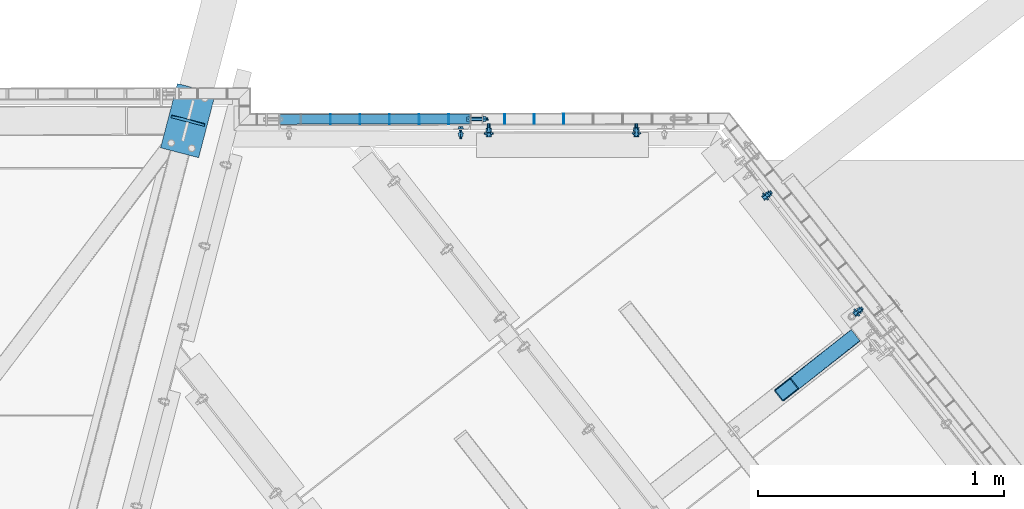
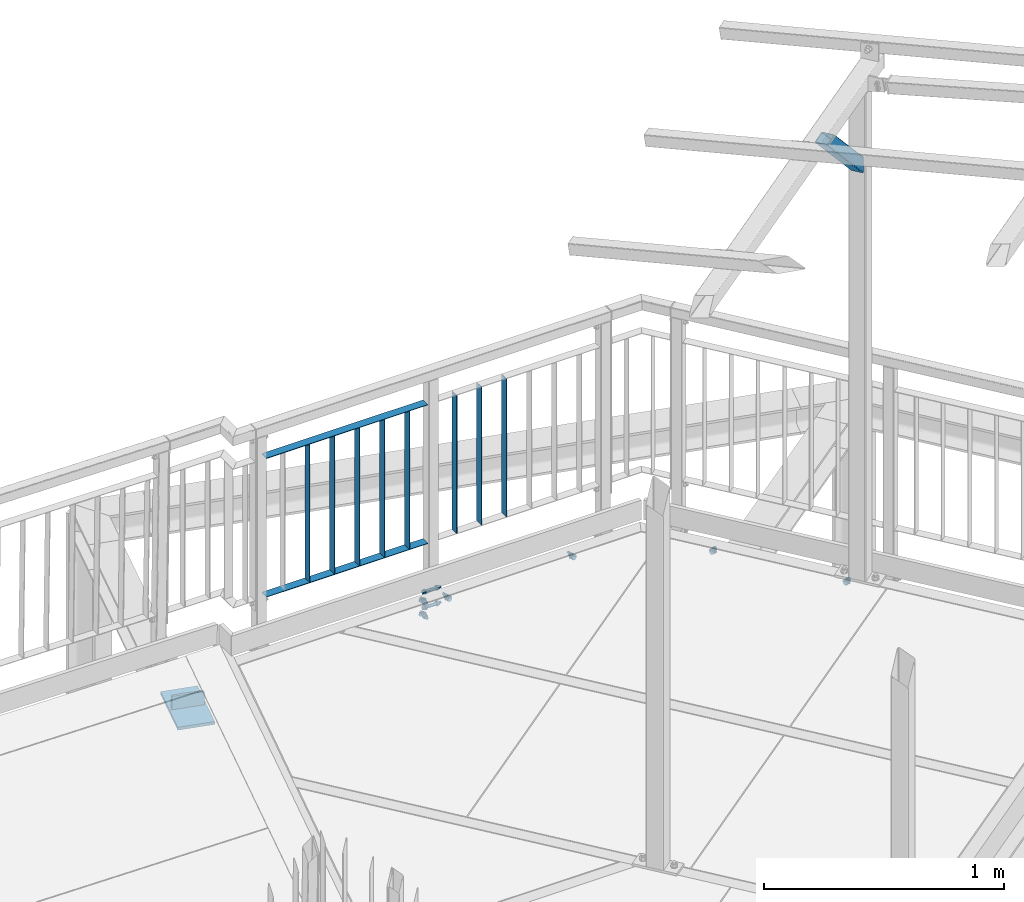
# One storey, part 129 of 169: 13 discrete accessories, 4 mechanical fasteners, 6 elements without a shape of their own.
"""IFC2X3 building model written with IfcOpenShell, lengths in millimetres."""

from ifc_helpers import new_model, si_unit, frame, frame_2d, origin_with_axes, origin_2d_with_axis, place, context, subcontext, project, spatial, polyline, circle_curve, parameter, trimmed, segment, composite_curve, rectangle, hollow_rectangle, circle, outline, extrude, boolean, clip, halfspace, source, transform, mapped, material, type_object, element, aggregate, save


model = new_model("IFC2X3")

# Units and contexts
model_context = context("Model", 3, precision=1e-05, world=origin_with_axes())
body_context = subcontext(model_context, "Body", "Model", "MODEL_VIEW")
ifc_project = project(units=[si_unit("LENGTHUNIT", "METRE", prefix="MILLI"), si_unit("AREAUNIT", "SQUARE_METRE"), si_unit("VOLUMEUNIT", "CUBIC_METRE"), si_unit("MASSUNIT", "GRAM", prefix="KILO"), si_unit("TIMEUNIT", "SECOND"), si_unit("PLANEANGLEUNIT", "RADIAN"), si_unit("SOLIDANGLEUNIT", "STERADIAN"), si_unit("THERMODYNAMICTEMPERATUREUNIT", "DEGREE_CELSIUS"), si_unit("LUMINOUSINTENSITYUNIT", "LUMEN")], contexts=[model_context])

# Site, building, storey
site_placement = place(None, origin_with_axes())
site = spatial("IfcSite", under=ifc_project, at=site_placement, Name="Undefined", CompositionType="ELEMENT")
building_placement = place(site_placement, origin_with_axes())
building = spatial("IfcBuilding", under=site, at=building_placement, Name="Undefined", CompositionType="ELEMENT")
storey_placement = place(building_placement, origin_with_axes())
storey = spatial("IfcBuildingStorey", under=building, at=storey_placement, Name="Undefined", CompositionType="ELEMENT", Elevation=0.0)

# Assembly, discrete accessory
assembly_1_placement = place(storey_placement, origin_with_axes())
assembly_1 = element("IfcElementAssembly", 1, at=assembly_1_placement, inside=storey, Name="Steel Assembly", AssemblyPlace="NOTDEFINED", PredefinedType="RIGID_FRAME")
ifc_material_1 = material(Name="STEEL/S355")
discrete_accessory_type_1 = type_object("IfcDiscreteAccessoryType", Name="BLACHA")
discrete_accessory_1_placement = place(assembly_1_placement, frame((18884.6726961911, 2170.02371001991, 13577.706391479), z_axis=(0.0, 0.0, 1.0), x_axis=(0.967563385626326, -0.252628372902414, 0.0)))
discrete_accessory_1 = element("IfcDiscreteAccessory", 2, at=discrete_accessory_1_placement, type_object=discrete_accessory_type_1, material=ifc_material_1, Name="BLACHA", ObjectType="BL15*160", context=body_context, shape_type="SweptSolid", body=[
    extrude(outline(polyline([(0.0, 0.0), (160.000000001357, 1.36424205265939e-10), (160.000000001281, 269.999999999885), (-5.46424416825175e-09, 269.999999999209), (0.0, 0.0)])), frame((0.0, -1.24077091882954e-23, -7.49999999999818), z_axis=(0.0, 0.0, 1.0), x_axis=(1.0, 0.0, 0.0)), (0.0, 0.0, 1.0), 15.0),
])

assembly_2_placement = place(storey_placement, origin_with_axes())
assembly_2 = element("IfcElementAssembly", 3, at=assembly_2_placement, inside=storey, Name="Steel Assembly", AssemblyPlace="NOTDEFINED", PredefinedType="RIGID_FRAME")
ifc_material_2 = material(Name="STEEL/S235")
discrete_accessory_type_2 = type_object("IfcDiscreteAccessoryType", Name="BEAM")
discrete_accessory_2_placement = place(assembly_2_placement, frame((21412.3001097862, 1173.94220497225, 16305.4411428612), z_axis=(-0.556332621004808, -0.436456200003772, -0.707106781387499), x_axis=(0.556332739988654, 0.436456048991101, -0.707106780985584)))
discrete_accessory_2 = element("IfcDiscreteAccessory", 4, at=discrete_accessory_2_placement, type_object=discrete_accessory_type_2, material=ifc_material_2, Name="BEAM", ObjectType="SHS60*3", context=body_context, shape_type="Clipping", body=[
    clip(clip(extrude(hollow_rectangle(XDim=60.0, YDim=60.0, WallThickness=3.0, InnerFilletRadius=3.0, OuterFilletRadius=6.0, at=origin_2d_with_axis()), frame((637.904540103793, 1.81363206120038e-12, 3.67338962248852e-12), z_axis=(-1.0, -3.46944695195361e-18, -1.38777878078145e-17), x_axis=(1.73472347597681e-18, -1.0, 0.0)), (0.0, 0.0, 1.0), 710.12), halfspace(frame((-143.137085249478, 3.41260601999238e-08, -678.822510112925), z_axis=(-0.707106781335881, -2.34577541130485e-10, 0.707106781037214), x_axis=(0.0, 1.0, 0.0)), True)), halfspace(frame((-705.391246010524, -5.43720307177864e-06, 735.391122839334), z_axis=(0.707106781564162, 2.34575523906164e-10, 0.707106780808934), x_axis=(0.0, 1.0, 0.0)), True)),
])
aggregate(assembly_2, [discrete_accessory_2])

# Discrete accessory
discrete_accessory_3_placement = place(assembly_1_placement, frame((18996.1826027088, 2280.43449420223, 13546.2064052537), z_axis=(-0.252628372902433, -0.967563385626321, 0.0), x_axis=(0.0, 0.0, 1.0)))
discrete_accessory_3 = element("IfcDiscreteAccessory", 5, at=discrete_accessory_3_placement, type_object=discrete_accessory_type_2, material=ifc_material_2, Name="BEAM", ObjectType="BL12*140", context=body_context, shape_type="Clipping", body=[
    clip(clip(extrude(outline(polyline([(38.9999999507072, 69.9999999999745), (107.349855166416, 69.9999999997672), (105.628422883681, -70.000000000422), (39.0000000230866, -70.0000000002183), (38.9999999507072, 69.9999999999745)])), frame((-1.81898942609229e-12, -1.81898940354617e-12, -5.99999999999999), z_axis=(0.0, 0.0, 1.0), x_axis=(1.0, 0.0, 0.0)), (0.0, 0.0, 1.0), 12.0), halfspace(frame((118.793852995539, 1000.66211049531, 0.194078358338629), z_axis=(-0.999919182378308, 0.0122949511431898, 0.00323463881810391), x_axis=(0.00323439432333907, -3.97698973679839e-05, 0.999994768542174)), True)), halfspace(frame((38.9999996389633, 1000.00000000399, 4.52928361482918e-09), z_axis=(1.0, 0.0, 0.0), x_axis=(-2.54700353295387e-10, 0.0, -1.0)), True)),
])

aggregate(assembly_1, [discrete_accessory_3, discrete_accessory_1])

# Assembly, discrete accessories
assembly_3_placement = place(storey_placement, origin_with_axes())
assembly_3 = element("IfcElementAssembly", 6, at=assembly_3_placement, inside=storey, Name="Steel Assembly", AssemblyPlace="NOTDEFINED", PredefinedType="RIGID_FRAME")
discrete_accessory_type_3 = type_object("IfcDiscreteAccessoryType", Name="PORĘCZ")
discrete_accessory_4_placement = place(assembly_3_placement, frame((19316.7468719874, 2285.53928650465, 14725.416721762), z_axis=(-2.54700353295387e-10, 0.0, -1.0), x_axis=(0.999998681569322, 0.00162384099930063, 1.65999999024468e-07)))
discrete_accessory_4 = element("IfcDiscreteAccessory", 7, at=discrete_accessory_4_placement, type_object=discrete_accessory_type_3, material=ifc_material_2, Name="PORĘCZ", ObjectType="BL40*3", context=body_context, shape_type="CSG", body=[
    boolean("DIFFERENCE", boolean("DIFFERENCE", boolean("DIFFERENCE", boolean("DIFFERENCE", extrude(outline(polyline([(50.5000000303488, 20.0000000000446), (827.35430248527, 19.999999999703), (827.354302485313, -20.0000000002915), (50.500000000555, -19.9999999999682), (50.5000000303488, 20.0000000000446)])), frame((1.81898940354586e-12, -1.77635442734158e-15, -1.50000000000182), z_axis=(0.0, 0.0, 1.0), x_axis=(1.0, 0.0, 0.0)), (0.0, 0.0, 1.0), 3.0), extrude(rectangle(XDim=51.0, YDim=51.0, at=origin_2d_with_axis()), frame((25.0000000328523, 4.80036578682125e-08, -139.999999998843), z_axis=(0.0, 0.0, 1.0), x_axis=(1.0, 0.0, 0.0)), (0.0, 0.0, 1.0), 280.0)), extrude(rectangle(XDim=51.0, YDim=51.0, at=origin_2d_with_axis()), frame((852.854302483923, 5.29290615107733e-08, -140.000000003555), z_axis=(0.0, 0.0, 1.0), x_axis=(1.0, 0.0, 0.0)), (0.0, 0.0, 1.0), 280.0)), halfspace(frame((49.9999397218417, 999.999999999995, 2.20794390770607e-07), z_axis=(1.0, 0.0, 0.0), x_axis=(-2.54700353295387e-10, 0.0, -1.0)), True)), halfspace(frame((827.854242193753, 1000.00000000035, -2.2878339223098e-07), z_axis=(-1.0, -3.46944695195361e-18, -1.38777878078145e-17), x_axis=(0.0, 0.0, 1.0)), True)),
])
discrete_accessory_5_placement = place(assembly_3_placement, frame((19575.6735987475, 2285.95966576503, 14870.4171478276), z_axis=(-0.999998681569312, -0.00162384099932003, -2.17981851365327e-07), x_axis=(-2.54700353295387e-10, 0.0, -1.0)))
discrete_accessory_5 = element("IfcDiscreteAccessory", 8, at=discrete_accessory_5_placement, type_object=discrete_accessory_type_3, material=ifc_material_2, Name="PORĘCZ", ObjectType="BL40*3", context=body_context, shape_type="Clipping", body=[
    clip(clip(clip(extrude(outline(polyline([(848.499998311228, 19.9999999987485), (848.500000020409, -20.000000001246), (146.500383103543, -20.0000000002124), (146.500381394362, 19.9999999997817), (848.499998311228, 19.9999999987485)])), frame((1.81898940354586e-12, -1.77635442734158e-15, -1.50000000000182), z_axis=(0.0, 0.0, 1.0), x_axis=(1.0, 0.0, 0.0)), (0.0, 0.0, 1.0), 3.0), halfspace(frame((146.500339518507, 1000.00000006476, -1.23327481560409e-09), z_axis=(1.0, 0.0, 0.0), x_axis=(-2.54700353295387e-10, 0.0, -1.0)), True)), halfspace(frame((25.3344726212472, 999.999999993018, -4.64569893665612e-09), z_axis=(1.0, 0.0, 0.0), x_axis=(-2.54700353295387e-10, 0.0, -1.0)), True)), halfspace(frame((848.499956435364, 999.999999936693, 2.33558239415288e-09), z_axis=(-1.0, -3.46944695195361e-18, -1.38777878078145e-17), x_axis=(0.0, 0.0, 1.0)), True)),
])
discrete_accessory_6_placement = place(assembly_3_placement, frame((19695.6734405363, 2286.15452668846, 14870.4171677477), z_axis=(-0.999998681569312, -0.00162384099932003, -2.17981851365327e-07), x_axis=(-2.54700353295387e-10, 0.0, -1.0)))
discrete_accessory_6 = element("IfcDiscreteAccessory", 9, at=discrete_accessory_6_placement, type_object=discrete_accessory_type_3, material=ifc_material_2, Name="PORĘCZ", ObjectType="BL40*3", context=body_context, shape_type="Clipping", body=[
    clip(clip(clip(extrude(outline(polyline([(848.499998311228, 19.9999999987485), (848.500000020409, -20.000000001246), (146.500383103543, -20.0000000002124), (146.500381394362, 19.9999999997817), (848.499998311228, 19.9999999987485)])), frame((1.81898940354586e-12, -1.77635442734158e-15, -1.50000000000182), z_axis=(0.0, 0.0, 1.0), x_axis=(1.0, 0.0, 0.0)), (0.0, 0.0, 1.0), 3.0), halfspace(frame((146.500339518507, 1000.00000006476, -1.23327481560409e-09), z_axis=(1.0, 0.0, 0.0), x_axis=(-2.54700353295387e-10, 0.0, -1.0)), True)), halfspace(frame((25.3344726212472, 999.999999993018, -4.64569893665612e-09), z_axis=(1.0, 0.0, 0.0), x_axis=(-2.54700353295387e-10, 0.0, -1.0)), True)), halfspace(frame((848.499956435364, 999.999999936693, 2.33558239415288e-09), z_axis=(-1.0, -3.46944695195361e-18, -1.38777878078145e-17), x_axis=(0.0, 0.0, 1.0)), True)),
])
discrete_accessory_7_placement = place(assembly_3_placement, frame((19815.6732823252, 2286.34938761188, 14870.4171876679), z_axis=(-0.999998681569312, -0.00162384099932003, -2.17981851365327e-07), x_axis=(-2.54700353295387e-10, 0.0, -1.0)))
discrete_accessory_7 = element("IfcDiscreteAccessory", 10, at=discrete_accessory_7_placement, type_object=discrete_accessory_type_3, material=ifc_material_2, Name="PORĘCZ", ObjectType="BL40*3", context=body_context, shape_type="Clipping", body=[
    clip(clip(clip(extrude(outline(polyline([(848.499998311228, 19.9999999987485), (848.500000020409, -20.000000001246), (146.500383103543, -20.0000000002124), (146.500381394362, 19.9999999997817), (848.499998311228, 19.9999999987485)])), frame((1.81898940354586e-12, -1.77635442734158e-15, -1.50000000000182), z_axis=(0.0, 0.0, 1.0), x_axis=(1.0, 0.0, 0.0)), (0.0, 0.0, 1.0), 3.0), halfspace(frame((146.500339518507, 1000.00000006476, -1.23327481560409e-09), z_axis=(1.0, 0.0, 0.0), x_axis=(-2.54700353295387e-10, 0.0, -1.0)), True)), halfspace(frame((25.3344726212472, 999.999999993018, -4.64569893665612e-09), z_axis=(1.0, 0.0, 0.0), x_axis=(-2.54700353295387e-10, 0.0, -1.0)), True)), halfspace(frame((848.499956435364, 999.999999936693, 2.33558239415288e-09), z_axis=(-1.0, -3.46944695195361e-18, -1.38777878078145e-17), x_axis=(0.0, 0.0, 1.0)), True)),
])
discrete_accessory_8_placement = place(assembly_3_placement, frame((19935.673124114, 2286.5442485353, 14870.417207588), z_axis=(-0.999998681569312, -0.00162384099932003, -2.17981851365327e-07), x_axis=(-2.54700353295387e-10, 0.0, -1.0)))
discrete_accessory_8 = element("IfcDiscreteAccessory", 11, at=discrete_accessory_8_placement, type_object=discrete_accessory_type_3, material=ifc_material_2, Name="PORĘCZ", ObjectType="BL40*3", context=body_context, shape_type="Clipping", body=[
    clip(clip(clip(extrude(outline(polyline([(848.499998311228, 19.9999999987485), (848.500000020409, -20.000000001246), (146.500383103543, -20.0000000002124), (146.500381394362, 19.9999999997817), (848.499998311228, 19.9999999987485)])), frame((1.81898940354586e-12, -1.77635442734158e-15, -1.50000000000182), z_axis=(0.0, 0.0, 1.0), x_axis=(1.0, 0.0, 0.0)), (0.0, 0.0, 1.0), 3.0), halfspace(frame((146.500339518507, 1000.00000006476, -1.23327481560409e-09), z_axis=(1.0, 0.0, 0.0), x_axis=(-2.54700353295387e-10, 0.0, -1.0)), True)), halfspace(frame((25.3344726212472, 999.999999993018, -4.64569893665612e-09), z_axis=(1.0, 0.0, 0.0), x_axis=(-2.54700353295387e-10, 0.0, -1.0)), True)), halfspace(frame((848.499956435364, 999.999999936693, 2.33558239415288e-09), z_axis=(-1.0, -3.46944695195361e-18, -1.38777878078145e-17), x_axis=(0.0, 0.0, 1.0)), True)),
])
discrete_accessory_9_placement = place(assembly_3_placement, frame((20055.6729659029, 2286.73910945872, 14870.4172275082), z_axis=(-0.999998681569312, -0.00162384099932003, -2.17981851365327e-07), x_axis=(-2.54700353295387e-10, 0.0, -1.0)))
discrete_accessory_9 = element("IfcDiscreteAccessory", 12, at=discrete_accessory_9_placement, type_object=discrete_accessory_type_3, material=ifc_material_2, Name="PORĘCZ", ObjectType="BL40*3", context=body_context, shape_type="Clipping", body=[
    clip(clip(clip(extrude(outline(polyline([(848.499998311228, 19.9999999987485), (848.500000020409, -20.000000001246), (146.500383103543, -20.0000000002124), (146.500381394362, 19.9999999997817), (848.499998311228, 19.9999999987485)])), frame((1.81898940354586e-12, -1.77635442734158e-15, -1.50000000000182), z_axis=(0.0, 0.0, 1.0), x_axis=(1.0, 0.0, 0.0)), (0.0, 0.0, 1.0), 3.0), halfspace(frame((146.500339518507, 1000.00000006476, -1.23327481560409e-09), z_axis=(1.0, 0.0, 0.0), x_axis=(-2.54700353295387e-10, 0.0, -1.0)), True)), halfspace(frame((25.3344726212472, 999.999999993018, -4.64569893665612e-09), z_axis=(1.0, 0.0, 0.0), x_axis=(-2.54700353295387e-10, 0.0, -1.0)), True)), halfspace(frame((848.499956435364, 999.999999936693, 2.33558239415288e-09), z_axis=(-1.0, -3.46944695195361e-18, -1.38777878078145e-17), x_axis=(0.0, 0.0, 1.0)), True)),
])
discrete_accessory_10_placement = place(assembly_3_placement, frame((20283.526967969, 2287.1091086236, 14870.4172653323), z_axis=(-0.999998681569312, -0.00162384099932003, -2.17981851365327e-07), x_axis=(-2.54700353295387e-10, 0.0, -1.0)))
discrete_accessory_10 = element("IfcDiscreteAccessory", 13, at=discrete_accessory_10_placement, type_object=discrete_accessory_type_3, material=ifc_material_2, Name="PORĘCZ", ObjectType="BL40*3", context=body_context, shape_type="Clipping", body=[
    clip(clip(clip(extrude(outline(polyline([(848.499998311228, 19.9999999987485), (848.500000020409, -20.000000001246), (146.500383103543, -20.0000000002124), (146.500381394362, 19.9999999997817), (848.499998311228, 19.9999999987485)])), frame((1.81898940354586e-12, -1.77635442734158e-15, -1.50000000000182), z_axis=(0.0, 0.0, 1.0), x_axis=(1.0, 0.0, 0.0)), (0.0, 0.0, 1.0), 3.0), halfspace(frame((146.500339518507, 1000.00000006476, -1.23327481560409e-09), z_axis=(1.0, 0.0, 0.0), x_axis=(-2.54700353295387e-10, 0.0, -1.0)), True)), halfspace(frame((25.3344726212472, 999.999999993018, -4.64569893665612e-09), z_axis=(1.0, 0.0, 0.0), x_axis=(-2.54700353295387e-10, 0.0, -1.0)), True)), halfspace(frame((848.499956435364, 999.999999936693, 2.33558239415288e-09), z_axis=(-1.0, -3.46944695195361e-18, -1.38777878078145e-17), x_axis=(0.0, 0.0, 1.0)), True)),
])
discrete_accessory_11_placement = place(assembly_3_placement, frame((20403.5268097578, 2287.30396954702, 14870.4172852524), z_axis=(-0.999998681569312, -0.00162384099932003, -2.17981851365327e-07), x_axis=(-2.54700353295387e-10, 0.0, -1.0)))
discrete_accessory_11 = element("IfcDiscreteAccessory", 14, at=discrete_accessory_11_placement, type_object=discrete_accessory_type_3, material=ifc_material_2, Name="PORĘCZ", ObjectType="BL40*3", context=body_context, shape_type="Clipping", body=[
    clip(clip(clip(extrude(outline(polyline([(848.499998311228, 19.9999999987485), (848.500000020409, -20.000000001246), (146.500383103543, -20.0000000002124), (146.500381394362, 19.9999999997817), (848.499998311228, 19.9999999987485)])), frame((1.81898940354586e-12, -1.77635442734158e-15, -1.50000000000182), z_axis=(0.0, 0.0, 1.0), x_axis=(1.0, 0.0, 0.0)), (0.0, 0.0, 1.0), 3.0), halfspace(frame((146.500339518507, 1000.00000006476, -1.23327481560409e-09), z_axis=(1.0, 0.0, 0.0), x_axis=(-2.54700353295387e-10, 0.0, -1.0)), True)), halfspace(frame((25.3344726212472, 999.999999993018, -4.64569893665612e-09), z_axis=(1.0, 0.0, 0.0), x_axis=(-2.54700353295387e-10, 0.0, -1.0)), True)), halfspace(frame((848.499956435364, 999.999999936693, 2.33558239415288e-09), z_axis=(-1.0, -3.46944695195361e-18, -1.38777878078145e-17), x_axis=(0.0, 0.0, 1.0)), True)),
])
discrete_accessory_12_placement = place(assembly_3_placement, frame((20523.5266515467, 2287.49883047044, 14870.4173051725), z_axis=(-0.999998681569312, -0.00162384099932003, -2.17981851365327e-07), x_axis=(-2.54700353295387e-10, 0.0, -1.0)))
discrete_accessory_12 = element("IfcDiscreteAccessory", 15, at=discrete_accessory_12_placement, type_object=discrete_accessory_type_3, material=ifc_material_2, Name="PORĘCZ", ObjectType="BL40*3", context=body_context, shape_type="Clipping", body=[
    clip(clip(clip(extrude(outline(polyline([(848.499998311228, 19.9999999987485), (848.500000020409, -20.000000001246), (146.500383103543, -20.0000000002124), (146.500381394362, 19.9999999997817), (848.499998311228, 19.9999999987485)])), frame((1.81898940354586e-12, -1.77635442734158e-15, -1.50000000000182), z_axis=(0.0, 0.0, 1.0), x_axis=(1.0, 0.0, 0.0)), (0.0, 0.0, 1.0), 3.0), halfspace(frame((146.500339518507, 1000.00000006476, -1.23327481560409e-09), z_axis=(1.0, 0.0, 0.0), x_axis=(-2.54700353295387e-10, 0.0, -1.0)), True)), halfspace(frame((25.3344726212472, 999.999999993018, -4.64569893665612e-09), z_axis=(1.0, 0.0, 0.0), x_axis=(-2.54700353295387e-10, 0.0, -1.0)), True)), halfspace(frame((848.499956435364, 999.999999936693, 2.33558239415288e-09), z_axis=(-1.0, -3.46944695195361e-18, -1.38777878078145e-17), x_axis=(0.0, 0.0, 1.0)), True)),
])
discrete_accessory_13_placement = place(assembly_3_placement, frame((19316.7469312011, 2285.53921107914, 14020.4171048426), z_axis=(-2.54700353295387e-10, 0.0, -1.0), x_axis=(0.999998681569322, 0.00162384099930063, 1.65999999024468e-07)))
discrete_accessory_13 = element("IfcDiscreteAccessory", 16, at=discrete_accessory_13_placement, type_object=discrete_accessory_type_3, material=ifc_material_2, Name="PORĘCZ", ObjectType="BL40*3", context=body_context, shape_type="CSG", body=[
    boolean("DIFFERENCE", boolean("DIFFERENCE", boolean("DIFFERENCE", boolean("DIFFERENCE", extrude(outline(polyline([(50.5000000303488, 20.0000000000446), (827.35430248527, 19.999999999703), (827.354302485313, -20.0000000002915), (50.500000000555, -19.9999999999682), (50.5000000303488, 20.0000000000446)])), frame((1.81898940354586e-12, -1.77635442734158e-15, -1.50000000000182), z_axis=(0.0, 0.0, 1.0), x_axis=(1.0, 0.0, 0.0)), (0.0, 0.0, 1.0), 3.0), extrude(rectangle(XDim=51.0, YDim=51.0, at=origin_2d_with_axis()), frame((25.0000000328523, 4.80036578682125e-08, -139.999999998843), z_axis=(0.0, 0.0, 1.0), x_axis=(1.0, 0.0, 0.0)), (0.0, 0.0, 1.0), 280.0)), extrude(rectangle(XDim=51.0, YDim=51.0, at=origin_2d_with_axis()), frame((852.854302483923, 5.29290615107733e-08, -140.000000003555), z_axis=(0.0, 0.0, 1.0), x_axis=(1.0, 0.0, 0.0)), (0.0, 0.0, 1.0), 280.0)), halfspace(frame((50.0000003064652, 999.99999999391, 3.93811205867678e-09), z_axis=(1.0, 0.0, 0.0), x_axis=(-2.54700353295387e-10, 0.0, -1.0)), True)), halfspace(frame((827.854293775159, 999.999999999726, -2.28761564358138e-07), z_axis=(-1.0, -3.46944695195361e-18, -1.38777878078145e-17), x_axis=(0.0, 0.0, 1.0)), True)),
])
aggregate(assembly_3, [discrete_accessory_4, discrete_accessory_5, discrete_accessory_6, discrete_accessory_7, discrete_accessory_8, discrete_accessory_9, discrete_accessory_10, discrete_accessory_11, discrete_accessory_12, discrete_accessory_13])

# Assembly, mechanical fastener
assembly_4_placement = place(storey_placement, origin_with_axes())
assembly_4 = element("IfcElementAssembly", 17, at=assembly_4_placement, inside=storey, Name="Steel Assembly", AssemblyPlace="NOTDEFINED", PredefinedType="RIGID_FRAME")
ifc_material_3 = material(Name="Undefined")
discrete_accessory_type_4 = type_object("IfcDiscreteAccessoryType", Name="Bolt assembly")
shared_shape_1 = source(origin_with_axes(), body_context, "Body", "SweptSolid", [
    extrude(circle(Radius=7.5, at=origin_2d_with_axis()), frame((0.0, 4.89999999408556, 0.0), z_axis=(0.0, 1.0, 0.0), x_axis=(1.0, 0.0, 0.0)), (0.0, 0.0, 1.0), 7.1),
    extrude(outline(composite_curve([segment(polyline([(-10.0, 7.5), (10.0, 7.5)]), True, "CONTINUOUS"), segment(trimmed(circle_curve(frame_2d((10.0, 0.0), x_axis=(0.0, 1.0)), 7.5), [parameter(0.0)], [parameter(3.14159265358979)], False, "PARAMETER"), True, "CONTINUOUS"), segment(polyline([(10.0, -7.5), (-10.0, -7.5)]), True, "CONTINUOUS"), segment(trimmed(circle_curve(frame_2d((-10.0, 0.0), x_axis=(0.0, -1.0)), 7.5), [parameter(0.0)], [parameter(3.14159265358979)], False, "PARAMETER"), True, "DISCONTINUOUS")], self_intersect=False)), frame((0.0, 0.100000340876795, 0.0), z_axis=(0.0, 1.0, 0.0), x_axis=(1.0, 0.0, 0.0)), (0.0, 0.0, 1.0), 5.0),
    extrude(outline(polyline([(10.39230484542, 0.0), (5.19615242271, 9.00000000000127), (-5.19615242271, 9.00000000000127), (-10.39230484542, 0.0), (-5.19615242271, -9.00000000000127), (5.19615242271, -9.00000000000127), (10.39230484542, 0.0)])), frame((0.0, -10.4999989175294, 0.0), z_axis=(0.0, 1.0, 0.0), x_axis=(1.0, 0.0, 0.0)), (0.0, 0.0, 1.0), 7.5),
    extrude(circle(Radius=6.0, at=origin_2d_with_axis()), frame((0.0, -3.00000607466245, 0.0), z_axis=(0.0, 1.0, 0.0), x_axis=(1.0, 0.0, 0.0)), (0.0, 0.0, 1.0), 45.0),
    extrude(circle(Radius=12.0, at=origin_2d_with_axis()), frame((0.0, -3.00000607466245, 0.0), z_axis=(0.0, 1.0, 0.0), x_axis=(1.0, 0.0, 0.0)), (0.0, 0.0, 1.0), 3.0),
    extrude(circle(Radius=12.0, at=origin_2d_with_axis()), frame((0.0, 12.000000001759, 0.0), z_axis=(0.0, 1.0, 0.0), x_axis=(1.0, 0.0, 0.0)), (0.0, 0.0, 1.0), 3.0),
    extrude(outline(polyline([(10.96965511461, 0.0), (5.484827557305, 9.50000000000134), (-5.484827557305, 9.50000000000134), (-10.96965511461, 0.0), (-5.484827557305, -9.50000000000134), (5.484827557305, -9.50000000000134), (10.96965511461, 0.0)])), frame((0.0, 14.9999935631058, 0.0), z_axis=(0.0, 1.0, 0.0), x_axis=(1.0, 0.0, 0.0)), (0.0, 0.0, 1.0), 10.0),
])
mechanical_fastener_1_placement = place(assembly_4_placement, frame((20218.6307403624, 2225.10849836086, 13740.4181439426), z_axis=(0.0, 0.0, 1.0), x_axis=(0.999998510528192, 0.0017259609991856, 1.66000001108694e-07)))
mechanical_fastener_1 = element("IfcMechanicalFastener", 18, at=mechanical_fastener_1_placement, type_object=discrete_accessory_type_4, material=ifc_material_3, Name="Bolt assembly", NominalDiameter=12.0, NominalLength=45.0, context=body_context, shape_type="MappedRepresentation", body=[
    mapped(shared_shape_1, transform((0.0, 0.0, 0.0))),
    mapped(shared_shape_1, transform((599.999999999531, 5.49789547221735e-10, -6.91215973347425e-11))),
])
aggregate(assembly_4, [mechanical_fastener_1])

assembly_5_placement = place(storey_placement, origin_with_axes())
assembly_5 = element("IfcElementAssembly", 19, at=assembly_5_placement, inside=storey, Name="Steel Assembly", AssemblyPlace="NOTDEFINED", PredefinedType="RIGID_FRAME")
shared_shape_2 = source(origin_with_axes(), body_context, "Body", "SweptSolid", [
    extrude(circle(Radius=7.5, at=origin_2d_with_axis()), frame((0.0, 4.89999999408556, 0.0), z_axis=(0.0, 1.0, 0.0), x_axis=(1.0, 0.0, 0.0)), (0.0, 0.0, 1.0), 7.1),
    extrude(outline(composite_curve([segment(polyline([(-10.0, 7.5), (10.0, 7.5)]), True, "CONTINUOUS"), segment(trimmed(circle_curve(frame_2d((10.0, 0.0), x_axis=(0.0, 1.0)), 7.5), [parameter(0.0)], [parameter(3.14159265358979)], False, "PARAMETER"), True, "CONTINUOUS"), segment(polyline([(10.0, -7.5), (-10.0, -7.5)]), True, "CONTINUOUS"), segment(trimmed(circle_curve(frame_2d((-10.0, 0.0), x_axis=(0.0, -1.0)), 7.5), [parameter(0.0)], [parameter(3.14159265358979)], False, "PARAMETER"), True, "DISCONTINUOUS")], self_intersect=False)), frame((0.0, 0.100000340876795, 0.0), z_axis=(0.0, 1.0, 0.0), x_axis=(1.0, 0.0, 0.0)), (0.0, 0.0, 1.0), 5.0),
    extrude(outline(polyline([(10.39230484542, 0.0), (5.19615242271, 9.00000000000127), (-5.19615242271, 9.00000000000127), (-10.39230484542, 0.0), (-5.19615242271, -9.00000000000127), (5.19615242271, -9.00000000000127), (10.39230484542, 0.0)])), frame((0.0, -10.4999989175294, 0.0), z_axis=(0.0, 1.0, 0.0), x_axis=(1.0, 0.0, 0.0)), (0.0, 0.0, 1.0), 7.5),
    extrude(circle(Radius=6.0, at=origin_2d_with_axis()), frame((0.0, -3.00000607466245, 0.0), z_axis=(0.0, 1.0, 0.0), x_axis=(1.0, 0.0, 0.0)), (0.0, 0.0, 1.0), 35.0),
    extrude(circle(Radius=12.0, at=origin_2d_with_axis()), frame((0.0, -3.00000607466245, 0.0), z_axis=(0.0, 1.0, 0.0), x_axis=(1.0, 0.0, 0.0)), (0.0, 0.0, 1.0), 3.0),
    extrude(circle(Radius=12.0, at=origin_2d_with_axis()), frame((0.0, 12.000000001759, 0.0), z_axis=(0.0, 1.0, 0.0), x_axis=(1.0, 0.0, 0.0)), (0.0, 0.0, 1.0), 3.0),
    extrude(outline(polyline([(10.96965511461, 0.0), (5.484827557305, 9.50000000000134), (-5.484827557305, 9.50000000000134), (-10.96965511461, 0.0), (-5.484827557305, -9.50000000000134), (5.484827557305, -9.50000000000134), (10.96965511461, 0.0)])), frame((0.0, 14.9999935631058, 0.0), z_axis=(0.0, 1.0, 0.0), x_axis=(1.0, 0.0, 0.0)), (0.0, 0.0, 1.0), 10.0),
])
mechanical_fastener_2_placement = place(assembly_5_placement, frame((21712.7213233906, 1498.650144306, 13740.4183020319), z_axis=(-2.54700353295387e-10, 0.0, -1.0), x_axis=(-0.617242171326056, 0.786773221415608, 5.09999997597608e-08)))
mechanical_fastener_2 = element("IfcMechanicalFastener", 20, at=mechanical_fastener_2_placement, type_object=discrete_accessory_type_4, material=ifc_material_3, Name="Bolt assembly", NominalDiameter=12.0, NominalLength=35.0, context=body_context, shape_type="MappedRepresentation", body=[
    mapped(shared_shape_2, transform((0.0, 0.0, 0.0))),
    mapped(shared_shape_2, transform((599.999999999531, 5.49789547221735e-10, -6.91215973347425e-11))),
])
aggregate(assembly_5, [mechanical_fastener_2])

# Assembly, mechanical fasteners
assembly_6_placement = place(storey_placement, origin_with_axes())
assembly_6 = element("IfcElementAssembly", 21, at=assembly_6_placement, inside=storey, Name="Steel Assembly", AssemblyPlace="NOTDEFINED", PredefinedType="RIGID_FRAME")
shared_shape_3 = source(origin_with_axes(), body_context, "Body", "SweptSolid", [
    extrude(circle(Radius=7.5, at=origin_2d_with_axis()), frame((0.0, 4.89999999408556, 0.0), z_axis=(0.0, 1.0, 0.0), x_axis=(1.0, 0.0, 0.0)), (0.0, 0.0, 1.0), 50.1),
    extrude(outline(composite_curve([segment(polyline([(7.5, 7.5), (7.5, -7.5)]), True, "CONTINUOUS"), segment(trimmed(circle_curve(frame_2d((0.0, -7.5), x_axis=(1.0, 0.0)), 7.5), [parameter(0.0)], [parameter(3.14159265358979)], False, "PARAMETER"), True, "CONTINUOUS"), segment(polyline([(-7.5, -7.5), (-7.5, 7.5)]), True, "CONTINUOUS"), segment(trimmed(circle_curve(frame_2d((0.0, 7.5), x_axis=(-1.0, 0.0)), 7.5), [parameter(0.0)], [parameter(3.14159265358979)], False, "PARAMETER"), True, "DISCONTINUOUS")], self_intersect=False)), frame((0.0, 0.100000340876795, 0.0), z_axis=(0.0, 1.0, 0.0), x_axis=(1.0, 0.0, 0.0)), (0.0, 0.0, 1.0), 5.0),
    extrude(outline(polyline([(10.39230484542, 0.0), (5.19615242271, 9.00000000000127), (-5.19615242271, 9.00000000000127), (-10.39230484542, 0.0), (-5.19615242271, -9.00000000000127), (5.19615242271, -9.00000000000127), (10.39230484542, 0.0)])), frame((0.0, -10.4999989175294, 0.0), z_axis=(0.0, 1.0, 0.0), x_axis=(1.0, 0.0, 0.0)), (0.0, 0.0, 1.0), 7.5),
    extrude(circle(Radius=6.0, at=origin_2d_with_axis()), frame((0.0, -3.00000607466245, 0.0), z_axis=(0.0, 1.0, 0.0), x_axis=(1.0, 0.0, 0.0)), (0.0, 0.0, 1.0), 80.0),
    extrude(circle(Radius=12.0, at=origin_2d_with_axis()), frame((0.0, -3.00000607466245, 0.0), z_axis=(0.0, 1.0, 0.0), x_axis=(1.0, 0.0, 0.0)), (0.0, 0.0, 1.0), 3.0),
    extrude(circle(Radius=12.0, at=origin_2d_with_axis()), frame((0.0, 54.9999999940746, 0.0), z_axis=(0.0, 1.0, 0.0), x_axis=(1.0, 0.0, 0.0)), (0.0, 0.0, 1.0), 3.0),
    extrude(outline(polyline([(10.96965511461, 0.0), (5.484827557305, 9.50000000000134), (-5.484827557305, 9.50000000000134), (-10.96965511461, 0.0), (-5.484827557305, -9.50000000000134), (5.484827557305, -9.50000000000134), (10.96965511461, 0.0)])), frame((0.0, 57.9999999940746, 0.0), z_axis=(0.0, 1.0, 0.0), x_axis=(1.0, 0.0, 0.0)), (0.0, 0.0, 1.0), 10.0),
])
mechanical_fastener_3_placement = place(assembly_6_placement, frame((20139.6001960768, 2286.87536735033, 13684.9823959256), z_axis=(-0.00162384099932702, 0.999998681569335, -1.10000109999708e-08), x_axis=(0.0, 0.0, 1.0)))
mechanical_fastener_3 = element("IfcMechanicalFastener", 22, at=mechanical_fastener_3_placement, type_object=discrete_accessory_type_4, material=ifc_material_3, Name="Bolt assembly", NominalDiameter=12.0, NominalLength=80.0, context=body_context, shape_type="MappedRepresentation", body=[
    mapped(shared_shape_3, transform((0.0, 0.0, 0.0))),
    mapped(shared_shape_3, transform((79.9999999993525, -4.5446979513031e-13, -4.53637127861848e-13))),
])
shared_shape_4 = source(origin_with_axes(), body_context, "Body", "SweptSolid", [
    extrude(circle(Radius=7.5, at=origin_2d_with_axis()), frame((0.0, 9.80975798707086, 0.0), z_axis=(0.0, 1.0, 0.0), x_axis=(1.0, 0.0, 0.0)), (0.0, 0.0, 1.0), 7.1),
    extrude(outline(composite_curve([segment(polyline([(7.5, 10.0), (7.5, -10.0)]), True, "CONTINUOUS"), segment(trimmed(circle_curve(frame_2d((0.0, -10.0), x_axis=(1.0, 0.0)), 7.5), [parameter(0.0)], [parameter(3.14159265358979)], False, "PARAMETER"), True, "CONTINUOUS"), segment(polyline([(-7.5, -10.0), (-7.5, 10.0)]), True, "CONTINUOUS"), segment(trimmed(circle_curve(frame_2d((0.0, 10.0), x_axis=(-1.0, 0.0)), 7.5), [parameter(0.0)], [parameter(3.14159265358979)], False, "PARAMETER"), True, "DISCONTINUOUS")], self_intersect=False)), frame((0.0, 0.103000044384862, 0.0), z_axis=(0.0, 1.0, 0.0), x_axis=(1.0, 0.0, 0.0)), (0.0, 0.0, 1.0), 5.0),
    extrude(outline(polyline([(10.39230484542, 0.0), (5.19615242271, 9.00000000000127), (-5.19615242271, 9.00000000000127), (-10.39230484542, 0.0), (-5.19615242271, -9.00000000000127), (5.19615242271, -9.00000000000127), (10.39230484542, 0.0)])), frame((0.0, -10.4969999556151, 0.0), z_axis=(0.0, 1.0, 0.0), x_axis=(1.0, 0.0, 0.0)), (0.0, 0.0, 1.0), 7.5),
    extrude(circle(Radius=6.0, at=origin_2d_with_axis()), frame((0.0, -2.99699995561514, 0.0), z_axis=(0.0, 1.0, 0.0), x_axis=(1.0, 0.0, 0.0)), (0.0, 0.0, 1.0), 45.0),
    extrude(circle(Radius=12.0, at=origin_2d_with_axis()), frame((0.0, -2.99699995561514, 0.0), z_axis=(0.0, 1.0, 0.0), x_axis=(1.0, 0.0, 0.0)), (0.0, 0.0, 1.0), 3.0),
    extrude(circle(Radius=12.0, at=origin_2d_with_axis()), frame((0.0, 16.9097580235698, 0.0), z_axis=(0.0, 1.0, 0.0), x_axis=(1.0, 0.0, 0.0)), (0.0, 0.0, 1.0), 3.0),
    extrude(outline(polyline([(10.96965511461, 0.0), (5.484827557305, 9.50000000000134), (-5.484827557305, 9.50000000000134), (-10.96965511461, 0.0), (-5.484827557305, -9.50000000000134), (5.484827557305, -9.50000000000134), (10.96965511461, 0.0)])), frame((0.0, 19.9097580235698, 0.0), z_axis=(0.0, 1.0, 0.0), x_axis=(1.0, 0.0, 0.0)), (0.0, 0.0, 1.0), 10.0),
])
mechanical_fastener_4_placement = place(assembly_6_placement, frame((20104.6651900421, 2246.82158636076, 13689.9823948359), z_axis=(0.999998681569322, 0.00162384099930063, 1.65999999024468e-07), x_axis=(0.0, 0.0, 1.0)))
mechanical_fastener_4 = element("IfcMechanicalFastener", 23, at=mechanical_fastener_4_placement, type_object=discrete_accessory_type_4, material=ifc_material_3, Name="Bolt assembly", NominalDiameter=12.0, NominalLength=45.0, context=body_context, shape_type="MappedRepresentation", body=[
    mapped(shared_shape_4, transform((0.0, 0.0, 0.0))),
    mapped(shared_shape_4, transform((70.0000000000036, -8.45830072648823e-11, -2.18278728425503e-11))),
])
aggregate(assembly_6, [mechanical_fastener_3, mechanical_fastener_4])

save(model, "model.ifc")
